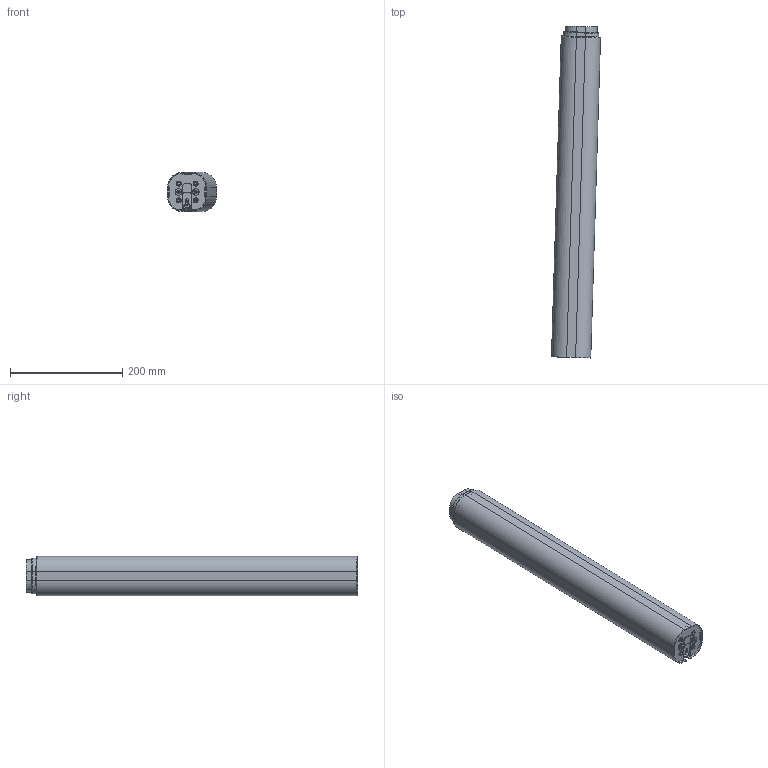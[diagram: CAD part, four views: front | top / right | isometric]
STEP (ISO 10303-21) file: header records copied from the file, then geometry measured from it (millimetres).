
FILE_DESCRIPTION (( 'STEP AP203' ), '1' );
FILE_NAME ('3D_TL47S-3R.STEP', '2026-04-23T02:32:26', ( '' ), ( '' ), 'SwSTEP 2.0', 'SolidWorks 2015', '' );
FILE_SCHEMA (( 'CONFIG_CONTROL_DESIGN' ));
Length unit declared in the file: millimetre
Products named in the file (13): 三維零件圖-33105-137-外管防擺環-A; 三維零件圖-33410-049-橡膠墊圈-A; 三維零件圖-35306-138-01-固定板-A; 三維零件圖-32317-51-內層管胚料_箇砞<诀竟>; 三維零件圖-33105-136-中管防擺環-A; 三維零件圖-33903-064-12-公制螺絲; 三維零件圖-33903-357-16-自攻螺絲-A; 三維零件圖-33410-095-橡膠墊-A; 三維零件圖-32317-5202-中層管烤漆-A; 三維零件圖-33903-356-公制螺絲-A; 3D_TL47S-3R; 三維零件圖-32317-53-外層管胚料-A_箇砞<诀竟>; 三維零件圖-35306-139-02-固定板-A
Assembly tree (16 placements, depth 2):
  3D_TL47S-3R
    三維零件圖-32317-53-外層管胚料-A_箇砞<诀竟>
    三維零件圖-35306-138-01-固定板-A
    三維零件圖-32317-51-內層管胚料_箇砞<诀竟>
    三維零件圖-35306-139-02-固定板-A
    三維零件圖-32317-5202-中層管烤漆-A
    三維零件圖-33410-095-橡膠墊-A
    三維零件圖-33105-136-中管防擺環-A
    三維零件圖-33105-137-外管防擺環-A
    三維零件圖-33903-064-12-公制螺絲  x2
    三維零件圖-33410-049-橡膠墊圈-A  x2
    三維零件圖-33903-356-公制螺絲-A  x2
    三維零件圖-33903-357-16-自攻螺絲-A  x2
Bounding box: 87.39 x 591.06 x 70 mm (x, y, z)
Volume: 514792.5 mm3; surface area: 653552.9 mm2
Topology: 18 solids, 18 shells, 1460 faces, 3983 edges, 2545 vertices
Faces by surface type: cylinder 599, plane 594, torus 144, bspline 80, cone 39, sphere 4
Entity records: 51670 total; most frequent: CARTESIAN_POINT 17535, ORIENTED_EDGE 7046, DIRECTION 6679, EDGE_CURVE 3523, AXIS2_PLACEMENT_3D 2347, VERTEX_POINT 2242, LINE 1985, VECTOR 1985
